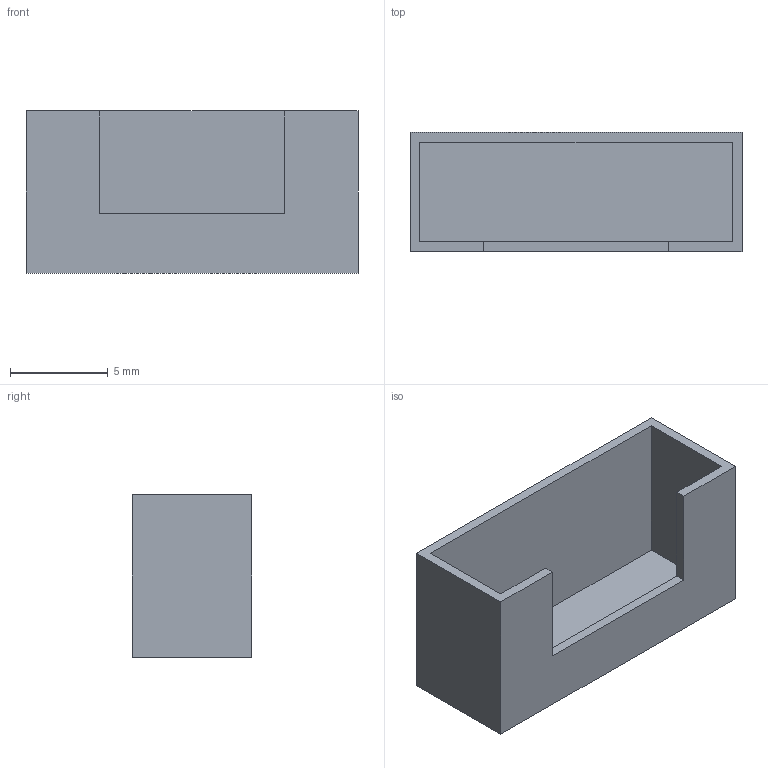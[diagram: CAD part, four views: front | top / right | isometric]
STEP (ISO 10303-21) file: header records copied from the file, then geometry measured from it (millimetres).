
FILE_DESCRIPTION(/* description */ ('STEP AP242','CAx-IF Rec.Pracs.---Representation and Presentation of Product Manufacturing Information (PMI)---4.0---2014-10-13','CAx-IF Rec.Pracs.---3D Tessellated Geometry---0.4---2014-09-14','2;1'),/* implementation_level */ '2;1');
FILE_NAME(/* name */ 'Arm Assembly - Nima 17 40x42x5mm (5)',/* time_stamp */ '2025-06-20T22:34:11Z',/* author */ (''),/* organization */ (''),/* preprocessor_version */ 'ST-DEVELOPER v20',/* originating_system */ 'ONSHAPE BY PTC INC, 1.199',/* authorisation */ ' ');
FILE_SCHEMA (('AP242_MANAGED_MODEL_BASED_3D_ENGINEERING_MIM_LF { 1 0 10303 442 1 1 4 }'));
Length unit declared in the file: metre
Products named in the file (1): Nima 17 40x42x5mm
Bounding box: 17 x 6.1 x 8.3 mm (x, y, z)
Volume: 199.2 mm3; surface area: 825.2 mm2
Topology: 1 solids, 1 shells, 14 faces, 36 edges, 24 vertices
Faces by surface type: plane 14
Entity records: 442 total; most frequent: CARTESIAN_POINT 75, ORIENTED_EDGE 72, DIRECTION 66, EDGE_CURVE 36, LINE 36, VECTOR 36, VERTEX_POINT 24, AXIS2_PLACEMENT_3D 15
